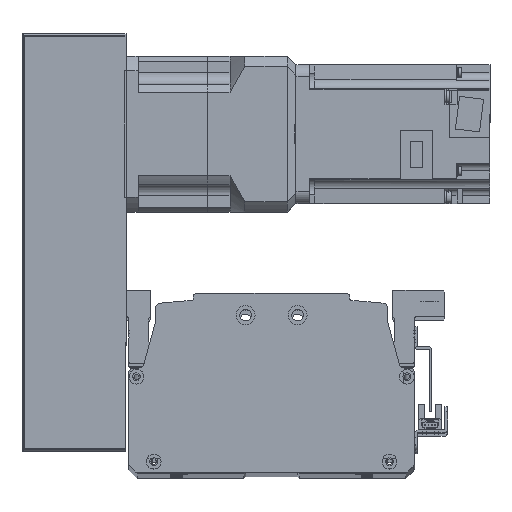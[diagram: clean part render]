
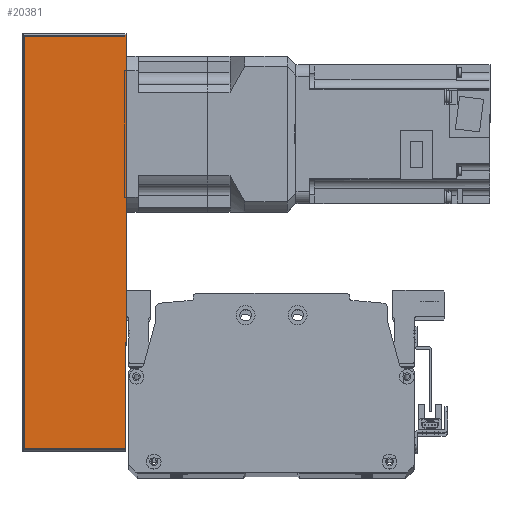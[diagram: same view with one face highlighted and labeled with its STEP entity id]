
A CAD part, top view. The second image highlights one B-rep face of the part: STEP entity #20381.
In plain terms, the highlighted planar face has unit normal (0, 0, 1) as drawn and (0, -1, 0) by its records, which use the part's own axes.
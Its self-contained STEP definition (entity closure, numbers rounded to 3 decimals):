
#609=PLANE('',#22259);
#1730=LINE('',#32795,#3390);
#1753=LINE('',#32882,#3413);
#1754=LINE('',#32890,#3414);
#1762=LINE('',#32916,#3422);
#3390=VECTOR('',#26559,10.);
#3413=VECTOR('',#26670,10.);
#3414=VECTOR('',#26681,10.);
#3422=VECTOR('',#26717,10.);
#5466=FACE_OUTER_BOUND('',#6954,.T.);
#6954=EDGE_LOOP('',(#16580,#16581,#16582,#16583));
#9878=VERTEX_POINT('',#32792);
#9879=VERTEX_POINT('',#32794);
#9899=VERTEX_POINT('',#32878);
#9900=VERTEX_POINT('',#32884);
#12265=EDGE_CURVE('',#9878,#9879,#1730,.T.);
#12310=EDGE_CURVE('',#9879,#9899,#1753,.T.);
#12314=EDGE_CURVE('',#9900,#9878,#1754,.T.);
#12328=EDGE_CURVE('',#9899,#9900,#1762,.T.);
#16580=ORIENTED_EDGE('',*,*,#12310,.F.);
#16581=ORIENTED_EDGE('',*,*,#12265,.F.);
#16582=ORIENTED_EDGE('',*,*,#12314,.F.);
#16583=ORIENTED_EDGE('',*,*,#12328,.F.);
#20381=ADVANCED_FACE('',(#5466),#609,.T.);
#22259=AXIS2_PLACEMENT_3D('',#32921,#26726,#26727);
#26559=DIRECTION('',(1.,0.,0.));
#26670=DIRECTION('',(0.,0.,-1.));
#26681=DIRECTION('',(0.,0.,1.));
#26717=DIRECTION('',(-1.,0.,0.));
#26726=DIRECTION('center_axis',(0.,-1.,0.));
#26727=DIRECTION('ref_axis',(1.,0.,0.));
#32792=CARTESIAN_POINT('',(-119.5,-51.,30.));
#32794=CARTESIAN_POINT('',(119.5,-51.,30.));
#32795=CARTESIAN_POINT('',(120.5,-51.,30.));
#32878=CARTESIAN_POINT('',(119.5,-51.,-29.));
#32882=CARTESIAN_POINT('',(119.5,-51.,0.));
#32884=CARTESIAN_POINT('',(-119.5,-51.,-29.));
#32890=CARTESIAN_POINT('',(-119.5,-51.,0.));
#32916=CARTESIAN_POINT('',(-60.25,-51.,-29.));
#32921=CARTESIAN_POINT('Origin',(-120.5,-51.,0.));
